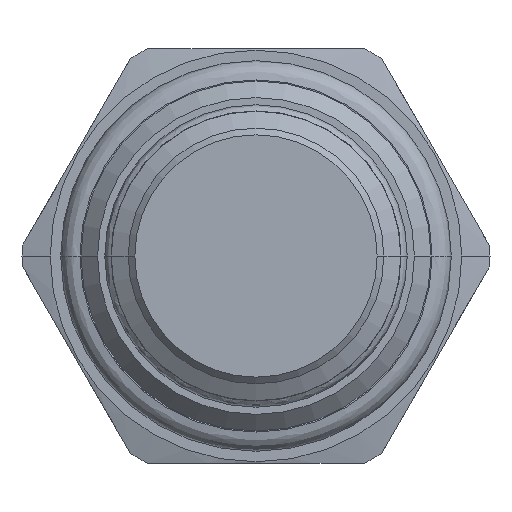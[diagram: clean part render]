
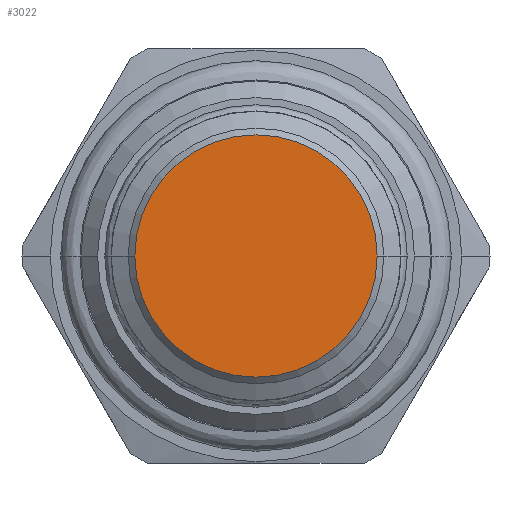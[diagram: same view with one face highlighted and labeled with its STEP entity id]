
A CAD part, front view. The second image highlights one B-rep face of the part: STEP entity #3022.
In plain terms, the highlighted planar face has unit normal (0, -1, 0).
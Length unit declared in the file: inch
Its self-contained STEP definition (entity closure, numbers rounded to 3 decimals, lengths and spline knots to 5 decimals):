
#893=CARTESIAN_POINT('',(0.,-2.39867,0.));
#894=DIRECTION('',(0.,1.,0.));
#895=DIRECTION('',(-1.,0.,0.));
#896=AXIS2_PLACEMENT_3D('',#893,#894,#895);
#903=CARTESIAN_POINT('',(0.,-2.39867,0.));
#904=DIRECTION('',(0.,1.,0.));
#905=DIRECTION('',(1.,0.,0.));
#906=AXIS2_PLACEMENT_3D('',#903,#904,#905);
#1607=CARTESIAN_POINT('',(-0.365,-2.39867,0.));
#1608=CARTESIAN_POINT('',(0.365,-2.39867,0.));
#1609=VERTEX_POINT('',#1607);
#1610=VERTEX_POINT('',#1608);
#3012=CARTESIAN_POINT('',(0.,-2.39867,0.));
#3013=DIRECTION('',(0.,-1.,0.));
#3014=DIRECTION('',(0.,0.,-1.));
#3015=AXIS2_PLACEMENT_3D('',#3012,#3013,#3014);
#3016=PLANE('',#3015);
#3018=ORIENTED_EDGE('',*,*,#3017,.T.);
#3019=ORIENTED_EDGE('',*,*,#3002,.T.);
#3020=EDGE_LOOP('',(#3018,#3019));
#3021=FACE_OUTER_BOUND('',#3020,.F.);
#3022=ADVANCED_FACE('',(#3021),#3016,.T.);
#897=CIRCLE('',#896,0.365);
#907=CIRCLE('',#906,0.365);
#3002=EDGE_CURVE('',#1609,#1610,#897,.T.);
#3017=EDGE_CURVE('',#1610,#1609,#907,.T.);
